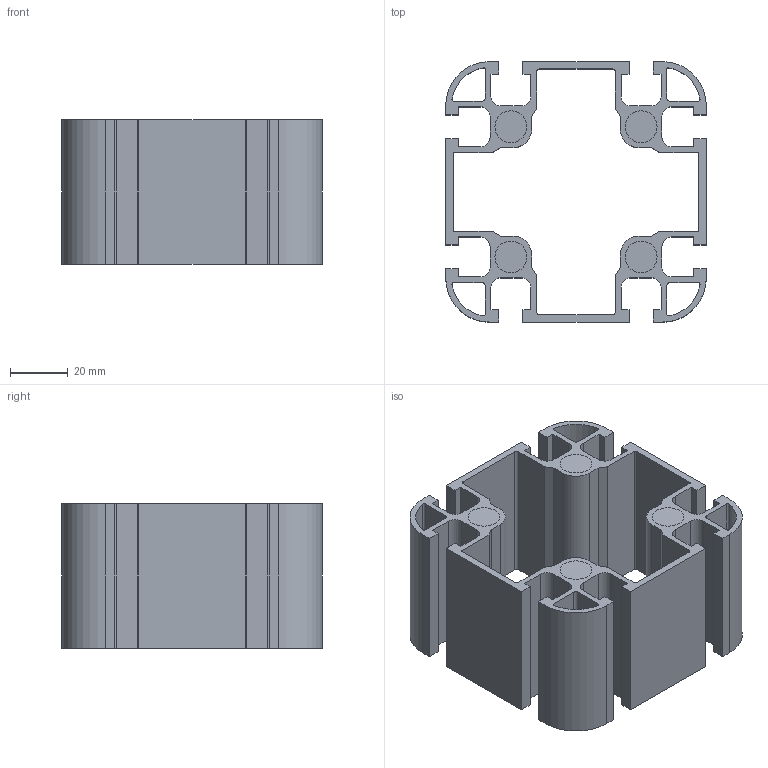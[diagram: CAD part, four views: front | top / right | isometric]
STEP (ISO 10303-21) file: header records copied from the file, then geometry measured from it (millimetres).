
FILE_DESCRIPTION (( 'STEP AP214' ), '1' );
FILE_NAME ('115.101.003.STEP', '2019-04-04T12:56:52', ( '' ), ( '' ), 'SwSTEP 2.0', 'SolidWorks 2018', '' );
FILE_SCHEMA (( 'AUTOMOTIVE_DESIGN' ));
Length unit declared in the file: millimetre
Products named in the file (1): 115.101.003
Bounding box: 90 x 90 x 50 mm (x, y, z)
Volume: 97763.8 mm3; surface area: 73714.6 mm2
Topology: 5 solids, 5 shells, 180 faces, 510 edges, 340 vertices
Faces by surface type: plane 114, cylinder 66
Entity records: 5952 total; most frequent: CARTESIAN_POINT 1031, ORIENTED_EDGE 1020, DIRECTION 1004, EDGE_CURVE 510, LINE 378, VECTOR 378, VERTEX_POINT 340, AXIS2_PLACEMENT_3D 313
